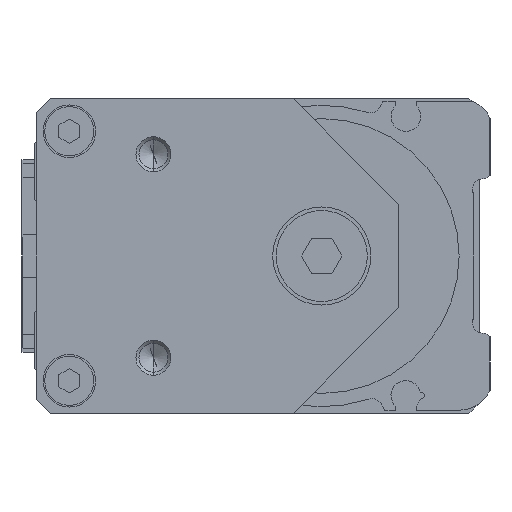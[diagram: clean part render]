
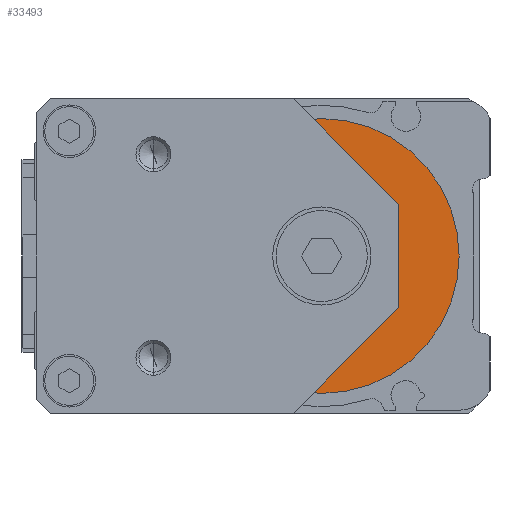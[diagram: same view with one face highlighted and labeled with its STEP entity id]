
A CAD part, left-side view. The second image highlights one B-rep face of the part: STEP entity #33493.
In plain terms, the highlighted planar face has unit normal (-1, 0, 0) as drawn and (0, 0, 1) by its records, which use the part's own axes.
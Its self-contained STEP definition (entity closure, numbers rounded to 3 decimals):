
#229 = VERTEX_POINT ( 'NONE', #29728 ) ;
#1876 = PLANE ( 'NONE',  #39494 ) ;
#2036 = CARTESIAN_POINT ( 'NONE',  ( -19.6, 0., -1. ) ) ;
#2665 = ORIENTED_EDGE ( 'NONE', *, *, #4555, .F. ) ;
#2821 = DIRECTION ( 'NONE',  ( 1., 0., 0. ) ) ;
#3034 = CARTESIAN_POINT ( 'NONE',  ( 0., 0., -1. ) ) ;
#4555 = EDGE_CURVE ( 'NONE', #229, #16520, #28880, .T. ) ;
#5948 = DIRECTION ( 'NONE',  ( 0., 0., 1. ) ) ;
#6686 = DIRECTION ( 'NONE',  ( 1., 0., 0. ) ) ;
#7188 = EDGE_CURVE ( 'NONE', #34429, #44311, #41810, .T. ) ;
#7417 = EDGE_LOOP ( 'NONE', ( #15246, #42919 ) ) ;
#7641 = DIRECTION ( 'NONE',  ( 1., 0., 0. ) ) ;
#8174 = CARTESIAN_POINT ( 'NONE',  ( 0., 0., -1. ) ) ;
#8666 = FACE_OUTER_BOUND ( 'NONE', #7417, .T. ) ;
#9106 = CARTESIAN_POINT ( 'NONE',  ( 19.6, 0., -1. ) ) ;
#9609 = DIRECTION ( 'NONE',  ( 0., 0., 1. ) ) ;
#13009 = ORIENTED_EDGE ( 'NONE', *, *, #17816, .F. ) ;
#14155 = CARTESIAN_POINT ( 'NONE',  ( 10., 0., -1. ) ) ;
#15246 = ORIENTED_EDGE ( 'NONE', *, *, #7188, .T. ) ;
#16520 = VERTEX_POINT ( 'NONE', #14155 ) ;
#17268 = EDGE_CURVE ( 'NONE', #44311, #34429, #41739, .T. ) ;
#17576 = CARTESIAN_POINT ( 'NONE',  ( 0., 0., -1. ) ) ;
#17816 = EDGE_CURVE ( 'NONE', #16520, #229, #38623, .T. ) ;
#18669 = CARTESIAN_POINT ( 'NONE',  ( 0., 0., -1. ) ) ;
#21265 = AXIS2_PLACEMENT_3D ( 'NONE', #17576, #9609, #6686 ) ;
#22005 = DIRECTION ( 'NONE',  ( 0., 0., 1. ) ) ;
#28880 = CIRCLE ( 'NONE', #34509, 10. ) ;
#29318 = FACE_BOUND ( 'NONE', #43235, .T. ) ;
#29728 = CARTESIAN_POINT ( 'NONE',  ( -10., 0., -1. ) ) ;
#30703 = AXIS2_PLACEMENT_3D ( 'NONE', #8174, #22005, #36716 ) ;
#33118 = DIRECTION ( 'NONE',  ( 1., 0., 0. ) ) ;
#33493 = ADVANCED_FACE ( 'NONE', ( #29318, #8666 ), #1876, .T. ) ;
#34429 = VERTEX_POINT ( 'NONE', #9106 ) ;
#34509 = AXIS2_PLACEMENT_3D ( 'NONE', #3034, #5948, #2821 ) ;
#36075 = DIRECTION ( 'NONE',  ( 0., 0., 1. ) ) ;
#36716 = DIRECTION ( 'NONE',  ( 1., 0., 0. ) ) ;
#38188 = AXIS2_PLACEMENT_3D ( 'NONE', #41880, #39331, #7641 ) ;
#38623 = CIRCLE ( 'NONE', #30703, 10. ) ;
#39331 = DIRECTION ( 'NONE',  ( 0., 0., 1. ) ) ;
#39494 = AXIS2_PLACEMENT_3D ( 'NONE', #18669, #36075, #33118 ) ;
#41739 = CIRCLE ( 'NONE', #21265, 19.6 ) ;
#41810 = CIRCLE ( 'NONE', #38188, 19.6 ) ;
#41880 = CARTESIAN_POINT ( 'NONE',  ( 0., 0., -1. ) ) ;
#42919 = ORIENTED_EDGE ( 'NONE', *, *, #17268, .T. ) ;
#43235 = EDGE_LOOP ( 'NONE', ( #2665, #13009 ) ) ;
#44311 = VERTEX_POINT ( 'NONE', #2036 ) ;
